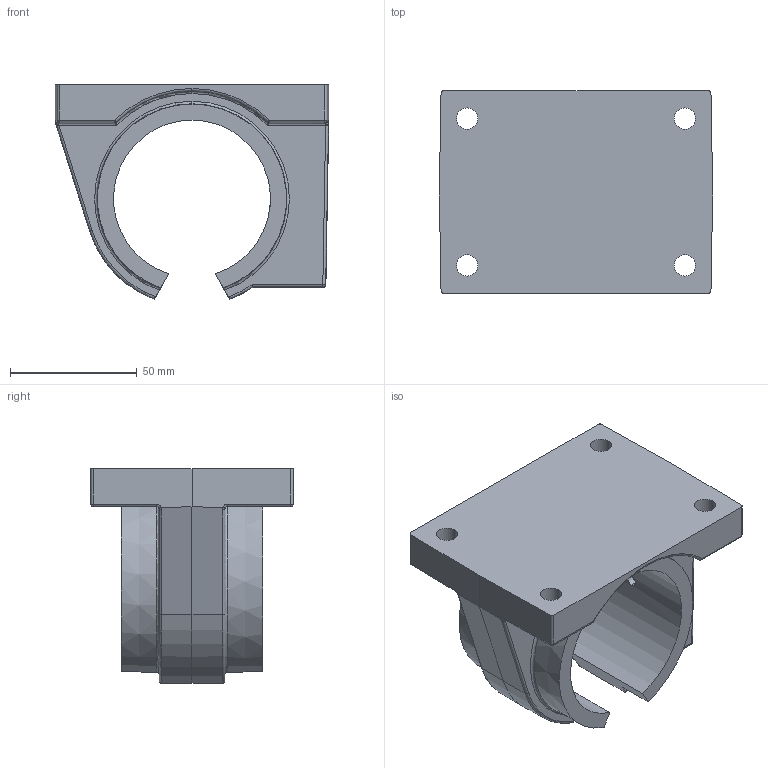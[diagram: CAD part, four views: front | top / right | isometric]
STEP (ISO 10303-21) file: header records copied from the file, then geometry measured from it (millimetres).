
FILE_DESCRIPTION (( 'STEP AP203' ), '1' );
FILE_NAME ('KGGO67-40.step', '2020-03-10T16:05:21', ( '' ), ( '' ), 'SwSTEP 2.0', 'SolidWorks 2019', '' );
FILE_SCHEMA (( 'CONFIG_CONTROL_DESIGN' ));
Length unit declared in the file: millimetre
Products named in the file (2): KGGO67-40
Bounding box: 107.98 x 80 x 84.78 mm (x, y, z)
Volume: 216074.2 mm3; surface area: 49696.9 mm2
Topology: 1 solids, 1 shells, 126 faces, 301 edges, 175 vertices
Faces by surface type: cylinder 53, plane 28, torus 16, bspline 12, sphere 10, cone 7
Entity records: 4201 total; most frequent: CARTESIAN_POINT 1235, DIRECTION 601, ORIENTED_EDGE 590, EDGE_CURVE 295, AXIS2_PLACEMENT_3D 247, VERTEX_POINT 175, EDGE_LOOP 140, CIRCLE 131
